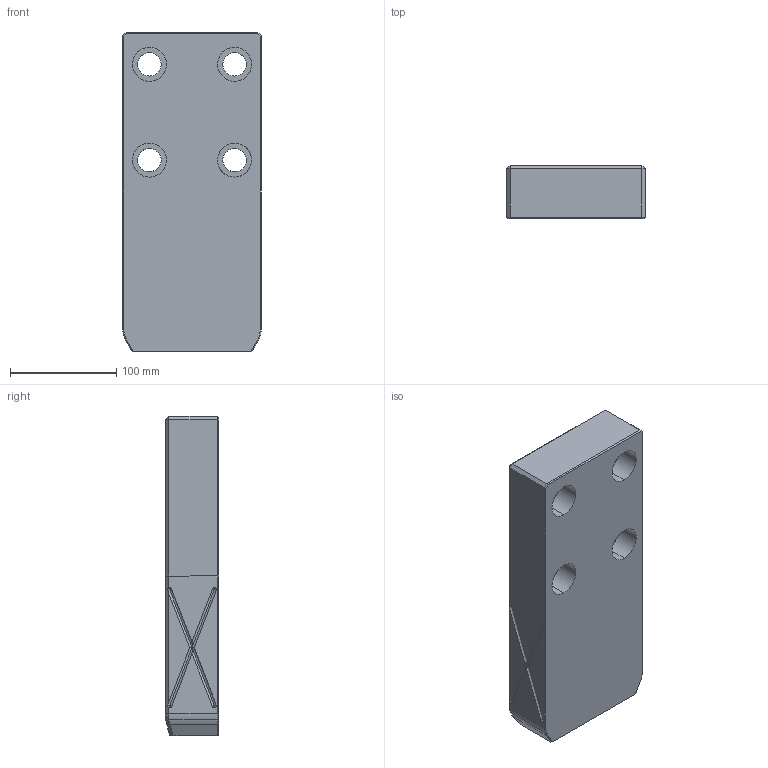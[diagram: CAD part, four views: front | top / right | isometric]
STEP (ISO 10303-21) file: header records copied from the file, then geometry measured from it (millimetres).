
FILE_DESCRIPTION(('CATIA V5 STEP Exchange'),'2;1');
FILE_NAME('D:\temp\color-modify-100929\GWB_6644-6654_R00\3d_gwb130-150-300_6650_r00.stp','2010-09-29T05:19:52+00:00',('none'),('none'),'CATIA Version 5 Release 18 SP 5 (IN-10)','CATIA V5 STEP AP214','none');
FILE_SCHEMA(('AUTOMOTIVE_DESIGN { 1 0 10303 214 1 1 1 1 }'));
Length unit declared in the file: millimetre
Products named in the file (1): GWB130-150-300
Bounding box: 130 x 50 x 300 mm (x, y, z)
Volume: 1813928.4 mm3; surface area: 134144.6 mm2
Topology: 1 solids, 1 shells, 139 faces, 363 edges, 208 vertices
Faces by surface type: cylinder 66, plane 39, revolution 24, bspline 6, cone 4
Entity records: 5221 total; most frequent: CARTESIAN_POINT 2253, ORIENTED_EDGE 678, DIRECTION 438, EDGE_CURVE 339, VERTEX_POINT 208, B_SPLINE_CURVE_WITH_KNOTS 167, AXIS2_PLACEMENT_3D 154, EDGE_LOOP 153
